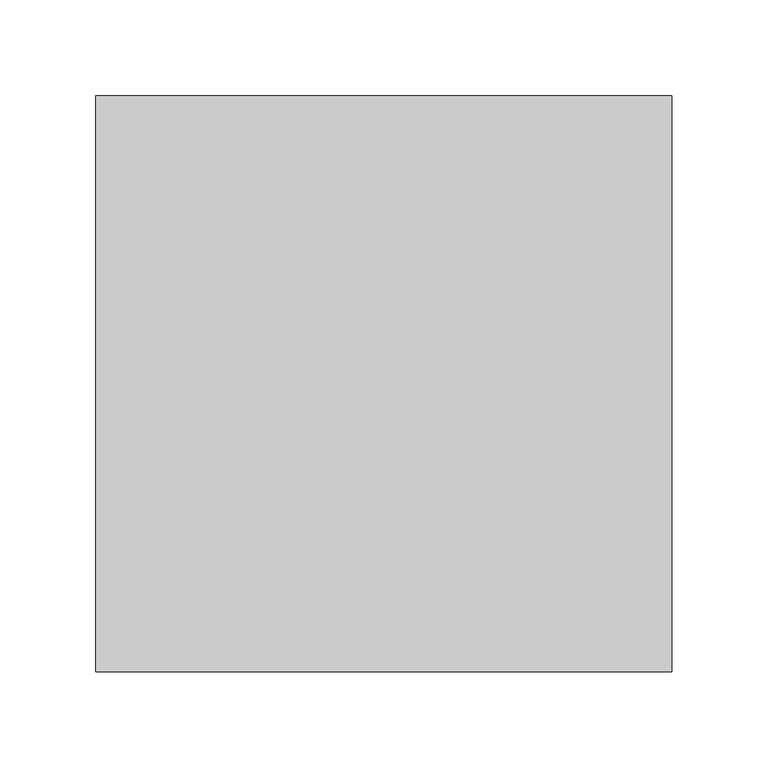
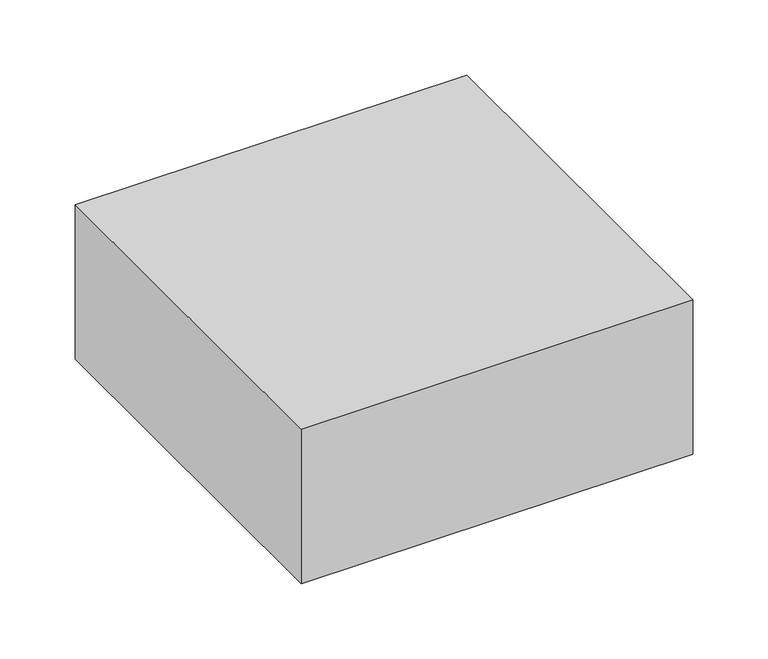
"""IFC4 building model written with IfcOpenShell, lengths in millimetres: proxy geometry, Módulo Laje de Concreto Celular - Celucon : MLCC 12,5x30x30cm (A x B x B)."""

import ifcopenshell
import ifcopenshell.guid

model = None  # the IFC model being written
_history = None  # IfcOwnerHistory: only IFC2X3 demands one
_inside = {}  # id of a spatial element -> (the spatial element, [elements in it])
_under = {}  # id of a project, library or spatial element -> (it, [spatial elements below it])
_declared = {}  # id of a project -> (the project, [libraries it declares])
_typed = {}  # id of a type object -> (the type object, [elements of that type])
_made_of = {}  # id of a material, layer set ... -> (it, [elements and type objects made of it])


def new_model(schema):
    """Start an empty IFC model of exactly this schema.

    Asked for "IFC4X3", IfcOpenShell would pick the latest addendum, in which some entities
    have other attributes; the version numbers below select the first issue.
    IFC2X3 requires an IfcOwnerHistory on every rooted entity: one is made here for all.
    """
    global model, _history
    if schema == "IFC4X3":
        model = ifcopenshell.file(schema_version=(4, 3, 0, 0))
    else:
        model = ifcopenshell.file(schema=schema)
    _inside.clear()
    _under.clear()
    _declared.clear()
    _typed.clear()
    _made_of.clear()
    _history = None
    if model.schema == "IFC2X3":
        org = make("IfcOrganization", Name="unknown")
        user = make(
            "IfcPersonAndOrganization",
            ThePerson=make("IfcPerson", FamilyName="unknown"),
            TheOrganization=org,
        )
        app = make(
            "IfcApplication",
            ApplicationDeveloper=org,
            Version="unknown",
            ApplicationFullName="unknown",
            ApplicationIdentifier="unknown",
        )
        _history = make(
            "IfcOwnerHistory",
            OwningUser=user,
            OwningApplication=app,
            ChangeAction="ADDED",
            CreationDate=0,
        )
    return model


def make(cls, **values):
    """One entity of the class cls with the attributes given. An attribute that is None is left unset."""
    return model.create_entity(
        cls, **{name: value for name, value in values.items() if value is not None}
    )


def rooted(cls, **values):
    """An entity with a GlobalId (a new one), such as an element, a storey or a relation."""
    return make(cls, GlobalId=ifcopenshell.guid.new(), OwnerHistory=_history, **values)


def si_unit(unit_type, name, prefix=None):
    """IfcSIUnit, for example si_unit("LENGTHUNIT", "METRE", prefix="MILLI")."""
    return make("IfcSIUnit", UnitType=unit_type, Prefix=prefix, Name=name)


def assignment(units):
    """IfcUnitAssignment: the units of a project."""
    return None if units is None else make("IfcUnitAssignment", Units=units)


def point(xyz):
    """IfcCartesianPoint."""
    return None if xyz is None else make("IfcCartesianPoint", Coordinates=xyz)


def direction(xyz):
    """IfcDirection."""
    return None if xyz is None else make("IfcDirection", DirectionRatios=xyz)


def frame(location, z_axis=None, x_axis=None):
    """IfcAxis2Placement3D, a coordinate frame: its origin and axes. An axis left out is left unset."""
    return make(
        "IfcAxis2Placement3D",
        Location=point(location),
        Axis=direction(z_axis),
        RefDirection=direction(x_axis),
    )


def origin():
    """The frame at (0, 0, 0) with its axes left unset."""
    return frame((0.0, 0.0, 0.0))


def origin_with_axes():
    """The frame at (0, 0, 0) with the z axis (0, 0, 1) and the x axis (1, 0, 0) written out."""
    return frame((0.0, 0.0, 0.0), z_axis=(0.0, 0.0, 1.0), x_axis=(1.0, 0.0, 0.0))


def place(relative_to, where):
    """IfcLocalPlacement: puts the frame where relative to a parent placement (None: the world)."""
    return make(
        "IfcLocalPlacement", PlacementRelTo=relative_to, RelativePlacement=where
    )


def context(
    kind, dimensions, precision=None, world=None, true_north=None, identifier=None
):
    """IfcGeometricRepresentationContext, for example the 3D "Model" context."""
    return make(
        "IfcGeometricRepresentationContext",
        ContextIdentifier=identifier,
        ContextType=kind,
        CoordinateSpaceDimension=dimensions,
        Precision=precision,
        WorldCoordinateSystem=world,
        TrueNorth=true_north,
    )


def project(units=None, contexts=None):
    """IfcProject with its units and contexts."""
    return rooted(
        "IfcProject",
        Name="project",
        RepresentationContexts=contexts,
        UnitsInContext=assignment(units),
    )


def spatial(cls, under=None, at=None, **own):
    """A site, building, storey or space (cls), placed at a placement, below another one or the project."""
    s = rooted(cls, ObjectPlacement=at, **own)
    if under is not None:
        _under.setdefault(under.id(), (under, []))[1].append(s)
    return s


def polyline(points):
    """IfcPolyline through the points."""
    return make("IfcPolyline", Points=[point(p) for p in points])


def outline(outer, holes=None, kind="AREA"):
    """IfcArbitraryClosedProfileDef: a profile drawn as a closed curve; with holes, ...WithVoids."""
    if holes is None:
        return make("IfcArbitraryClosedProfileDef", ProfileType=kind, OuterCurve=outer)
    return make(
        "IfcArbitraryProfileDefWithVoids",
        ProfileType=kind,
        OuterCurve=outer,
        InnerCurves=holes,
    )


def extrude(swept, where, along, depth):
    """IfcExtrudedAreaSolid: the profile swept, set in the frame where, extruded along a direction by depth."""
    return make(
        "IfcExtrudedAreaSolid",
        SweptArea=swept,
        Position=where,
        ExtrudedDirection=direction(along),
        Depth=depth,
    )


def shape(context_of_items, identifier, shape_type, items):
    """IfcShapeRepresentation: the items that make up one representation, for example the "Body"."""
    return make(
        "IfcShapeRepresentation",
        ContextOfItems=context_of_items,
        RepresentationIdentifier=identifier,
        RepresentationType=shape_type,
        Items=items,
    )


def source(mapping_origin, context_of_items, identifier, shape_type, items):
    """IfcRepresentationMap: a shape defined once, which mapped items show again and again."""
    return make(
        "IfcRepresentationMap",
        MappingOrigin=mapping_origin,
        MappedRepresentation=shape(context_of_items, identifier, shape_type, items),
    )


def transform(
    local_origin,
    x_axis=None,
    y_axis=None,
    z_axis=None,
    scale=None,
    scale2=None,
    scale3=None,
    uniform=True,
):
    """IfcCartesianTransformationOperator3D, or its non-uniform kind. x_axis, y_axis, z_axis: its Axis1, 2, 3."""
    if uniform:
        return make(
            "IfcCartesianTransformationOperator3D",
            Axis1=direction(x_axis),
            Axis2=direction(y_axis),
            LocalOrigin=point(local_origin),
            Scale=scale,
            Axis3=direction(z_axis),
        )
    return make(
        "IfcCartesianTransformationOperator3DnonUniform",
        Axis1=direction(x_axis),
        Axis2=direction(y_axis),
        LocalOrigin=point(local_origin),
        Scale=scale,
        Axis3=direction(z_axis),
        Scale2=scale2,
        Scale3=scale3,
    )


def mapped(mapping_source, mapping_target):
    """IfcMappedItem: shows the shape of a source again, moved by a transform."""
    return make(
        "IfcMappedItem", MappingSource=mapping_source, MappingTarget=mapping_target
    )


def made_of(thing, what):
    """Note that an element or type object is made of a material, layer set ...; save() writes the relation."""
    if what is not None:
        _made_of.setdefault(what.id(), (what, []))[1].append(thing)
    return thing


def element(
    cls,
    number,
    at=None,
    inside=None,
    cuts=None,
    type_object=None,
    material=None,
    context=None,
    identifier="Body",
    shape_type=None,
    held_by="IfcProductDefinitionShape",
    body=None,
    shapes=None,
    **own,
):
    """One element of the class cls, such as IfcWall. Its Tag is "e" and its number.

    at: its placement. inside: the storey or other place that contains it. cuts: it is an
    opening in that element (IfcRelVoidsElement). A single representation is given by context,
    identifier, shape_type and body (its items); several are given by shapes. held_by: the class
    of the entity that holds the representations. save() writes the other relations.
    """
    e = rooted(cls, Tag="e%d" % number, ObjectPlacement=at, **own)
    if body is not None:
        shapes = [shape(context, identifier, shape_type, body)]
    if shapes is not None:
        e.Representation = make(held_by, Representations=shapes)
    if inside is not None:
        _inside.setdefault(inside.id(), (inside, []))[1].append(e)
    if cuts is not None:
        rooted(
            "IfcRelVoidsElement", RelatingBuildingElement=cuts, RelatedOpeningElement=e
        )
    if type_object is not None:
        _typed.setdefault(type_object.id(), (type_object, []))[1].append(e)
    return made_of(e, material)


def aggregate(whole, parts):
    """IfcRelAggregates: a whole, such as a stair, and the parts it consists of."""
    return rooted("IfcRelAggregates", RelatingObject=whole, RelatedObjects=parts)


def save(model, path):
    """Write the relations noted so far, then the file.

    IfcRelAggregates (storeys below a building ...), IfcRelContainedInSpatialStructure (elements
    in a storey), IfcRelDefinesByType, IfcRelAssociatesMaterial and IfcRelDeclares: one each for
    every whole, place, type object, material and project.
    """
    for whole, parts in _under.values():
        aggregate(whole, parts)
    for where, things in _inside.values():
        rooted(
            "IfcRelContainedInSpatialStructure",
            RelatedElements=things,
            RelatingStructure=where,
        )
    for kind, things in _typed.values():
        rooted("IfcRelDefinesByType", RelatedObjects=things, RelatingType=kind)
    for what, things in _made_of.values():
        rooted("IfcRelAssociatesMaterial", RelatedObjects=things, RelatingMaterial=what)
    for by, libraries in _declared.values():
        rooted("IfcRelDeclares", RelatingContext=by, RelatedDefinitions=libraries)
    model.write(path)


def generic_models_fa7f8e5b(model_context):
    return source(origin(), model_context, "Body", "SweptSolid", [
        extrude(outline(polyline([(150.0, 150.0), (150.0, -150.0), (-150.0, -150.0), (-150.0, 150.0), (150.0, 150.0)])), origin_with_axes(), (0.0, 0.0, 1.0), 125.0),
    ])


if __name__ == "__main__":
    model = new_model("IFC4")
    model_context = context("Model", 3, world=origin())
    ifc_project = project(units=[si_unit("LENGTHUNIT", "METRE", prefix="MILLI")], contexts=[model_context])
    site = spatial("IfcSite", under=ifc_project)
    building = spatial("IfcBuilding", under=site)
    placement = place(None, origin())
    generic_models_shape = generic_models_fa7f8e5b(model_context)
    element("IfcBuildingElementProxy", 1, Name="Módulo Laje de Concreto Celular - Celucon : MLCC 12,5x30x30cm (A x B x B)", ObjectType="Módulo Laje de Concreto Celular - Celucon : MLCC 12,5x30x30cm (A x B x B)", at=placement, inside=building, context=model_context, shape_type="MappedRepresentation", body=[
        mapped(generic_models_shape, transform((0.0, 0.0, 0.0), x_axis=(1.0, 0.0, 0.0), y_axis=(0.0, 1.0, 0.0), z_axis=(0.0, 0.0, 1.0))),
    ])
    save(model, "model.ifc")
